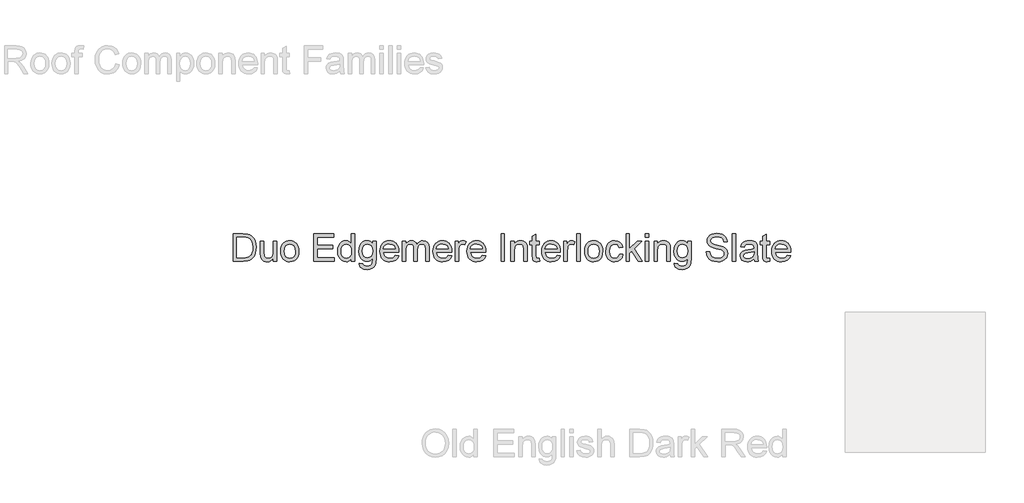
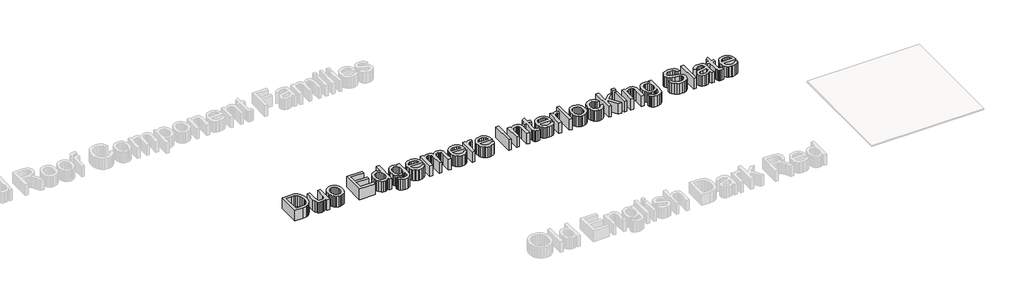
# One storey, part 6 of 8: 1 proxy.
"""IFC4 building model written with IfcOpenShell, lengths in millimetres."""

from ifc_helpers import new_model, si_unit, frame, origin, place, context, project, spatial, polyline, outline, extrude, element, save

model = new_model("IFC4")

# Units and contexts
model_context = context("Model", 3, world=origin())
ifc_project = project(units=[si_unit("LENGTHUNIT", "METRE", prefix="MILLI")], contexts=[model_context])

# Site, building, storey
site = spatial("IfcSite", under=ifc_project)
building = spatial("IfcBuilding", under=site)
storey = spatial("IfcBuildingStorey", under=building, Name="Marley Concrete Interlocking Tiles", Elevation=3000.0)

# Proxy
placement = place(None, origin())
element("IfcBuildingElementProxy", 1, Name="600mm Arial", ObjectType="600mm Arial", at=placement, inside=storey, context=model_context, shape_type="SweptSolid", body=[
    extrude(outline(polyline([(-6964.7985985, 5593.6521873), (-6964.7985985, 5889.0368027), (-6862.8995601, 5889.0368027), (-6810.1832139, 5884.781995), (-6786.6375408, 5876.57887), (-6766.7697524, 5863.6521873), (-6746.3430697, 5841.1521873), (-6731.7937908, 5813.1714181), (-6723.0858582, 5780.250745), (-6720.1832139, 5742.9310335), (-6722.1483582, 5711.2273075), (-6728.0437908, 5683.3276681), (-6737.0221562, 5659.5746633), (-6748.2360985, 5640.3108412), (-6761.1447524, 5625.1035094), (-6775.2072524, 5613.5199758), (-6791.3520841, 5604.9292306), (-6810.5077332, 5598.7002643), (-6857.9957139, 5593.6521873), (-6964.7985985, 5593.6521873)]), holes=[polyline([(-6927.8755216, 5630.5752643), (-6862.5389832, 5630.5752643), (-6835.5137428, 5631.9093989), (-6815.0149447, 5635.9118027), (-6799.5461947, 5642.3481008), (-6787.6110985, 5650.9839181), (-6774.7835745, 5666.9664902), (-6765.1471562, 5687.6545912), (-6759.1165072, 5713.1383652), (-6757.1062908, 5743.5079566), (-6761.0455937, 5783.7483412), (-6772.8635024, 5813.4598796), (-6790.3244399, 5833.8685335), (-6811.1928293, 5846.2002643), (-6832.4308101, 5850.6353604), (-6863.5485985, 5852.1137258), (-6927.8755216, 5852.1137258), (-6927.8755216, 5630.5752643)])]), frame((0.0, 0.0, 3000.0), z_axis=(0.0, 0.0, 1.0), x_axis=(1.0, 0.0, 0.0)), (0.0, 0.0, 1.0), 150.0),
    extrude(outline(polyline([(-6535.5678293, 5593.6521873), (-6535.5678293, 5630.9358412), (-6548.9272043, 5612.6050119), (-6564.4860985, 5599.5115623), (-6582.244512, 5591.6554926), (-6602.2024447, 5589.0368027), (-6620.1862187, 5590.875745), (-6636.9260024, 5596.3925719), (-6650.9704735, 5604.6858412), (-6660.8683101, 5614.8541104), (-6671.8659062, 5642.0416104), (-6674.0293678, 5676.3685335), (-6674.0293678, 5810.5752643), (-6637.1062908, 5810.5752643), (-6637.1062908, 5693.7483412), (-6634.8707139, 5656.1041104), (-6629.4891033, 5643.5470191), (-6620.2673485, 5634.000745), (-6607.8184303, 5627.970096), (-6592.7553293, 5625.9598796), (-6576.8268437, 5628.0151681), (-6561.9260024, 5634.1810335), (-6549.6393437, 5643.8895671), (-6541.5534062, 5656.5728604), (-6537.0642235, 5673.9436537), (-6535.5678293, 5697.7146873), (-6535.5678293, 5810.5752643), (-6498.6447524, 5810.5752643), (-6498.6447524, 5593.6521873), (-6535.5678293, 5593.6521873)])), frame((0.0, 0.0, 3000.0), z_axis=(0.0, 0.0, 1.0), x_axis=(1.0, 0.0, 0.0)), (0.0, 0.0, 1.0), 150.0),
    extrude(outline(polyline([(-6457.1062908, 5702.1137258), (-6455.1095961, 5730.2071753), (-6449.119512, 5754.4154085), (-6439.1360384, 5774.7384253), (-6425.1591755, 5791.1762258), (-6411.087661, 5801.6825359), (-6395.5558101, 5809.1870431), (-6378.5636226, 5813.6897474), (-6360.1110985, 5815.1906489), (-6339.740756, 5813.3629746), (-6321.322036, 5807.8799518), (-6304.8549387, 5798.7415804), (-6290.3394639, 5785.9478604), (-6278.4922584, 5769.9314842), (-6270.0299687, 5751.1251441), (-6264.9525949, 5729.52884), (-6263.260137, 5705.1425719), (-6266.2529255, 5667.8408893), (-6275.2312908, 5639.4454566), (-6289.9338149, 5618.1804325), (-6310.0990793, 5602.2699758), (-6334.0504014, 5592.345096), (-6360.1110985, 5589.0368027), (-6380.778917, 5590.8577162), (-6399.368911, 5596.3204566), (-6415.8810805, 5605.4250239), (-6430.3154255, 5618.1714181), (-6442.0364291, 5634.3432931), (-6450.4085745, 5653.7243027), (-6455.4318618, 5676.3144469), (-6457.1062908, 5702.1137258)]), holes=[polyline([(-6420.1832139, 5702.1858412), (-6415.9103774, 5668.7693748), (-6403.0918678, 5644.9622835), (-6383.8010024, 5630.7104806), (-6360.1110985, 5625.9598796), (-6336.5293678, 5630.7375239), (-6317.2745601, 5645.0704566), (-6304.4560505, 5669.1930527), (-6300.1832139, 5703.3396873), (-6304.4830937, 5735.782596), (-6317.3827332, 5759.2651681), (-6336.6645841, 5773.516971), (-6360.1110985, 5778.2675719), (-6383.8010024, 5773.5349998), (-6403.0918678, 5759.3372835), (-6415.9103774, 5735.5842787), (-6420.1832139, 5702.1858412)])]), frame((0.0, 0.0, 3000.0), z_axis=(0.0, 0.0, 1.0), x_axis=(1.0, 0.0, 0.0)), (0.0, 0.0, 1.0), 150.0),
    extrude(outline(polyline([(-6101.7216755, 5593.6521873), (-6101.7216755, 5889.0368027), (-5889.4139832, 5889.0368027), (-5889.4139832, 5852.1137258), (-6064.7985985, 5852.1137258), (-6064.7985985, 5764.4214181), (-5898.6447524, 5764.4214181), (-5898.6447524, 5727.4983412), (-6064.7985985, 5727.4983412), (-6064.7985985, 5630.5752643), (-5884.7985985, 5630.5752643), (-5884.7985985, 5593.6521873), (-6101.7216755, 5593.6521873)])), frame((0.0, 0.0, 3000.0), z_axis=(0.0, 0.0, 1.0), x_axis=(1.0, 0.0, 0.0)), (0.0, 0.0, 1.0), 150.0),
    extrude(outline(polyline([(-5700.1832139, 5593.6521873), (-5700.1832139, 5628.4839181), (-5711.2303894, 5611.2258051), (-5724.6123005, 5598.8985816), (-5740.3289471, 5591.5022474), (-5758.3803293, 5589.0368027), (-5782.2505216, 5592.6065143), (-5804.1014832, 5603.3156489), (-5822.5990793, 5620.4160094), (-5836.4091755, 5643.1593989), (-5845.0089351, 5670.626346), (-5847.8755216, 5701.8973796), (-5845.2342957, 5732.7807931), (-5837.3106178, 5760.6714181), (-5824.1135024, 5783.9827162), (-5805.6519639, 5801.1281489), (-5783.323238, 5811.6750239), (-5758.5245601, 5815.1906489), (-5740.4596562, 5812.6756248), (-5724.4860985, 5805.1305527), (-5710.9464351, 5793.5650479), (-5700.1832139, 5778.9887258), (-5700.1832139, 5889.0368027), (-5663.260137, 5889.0368027), (-5663.260137, 5593.6521873), (-5700.1832139, 5593.6521873)]), holes=[polyline([(-5810.9524447, 5702.0416104), (-5806.7877812, 5668.6431729), (-5794.2937908, 5644.8901681), (-5776.1387428, 5630.6924518), (-5754.9909062, 5625.9598796), (-5733.8520841, 5630.4761056), (-5716.1567716, 5644.0247835), (-5704.1766033, 5666.8583171), (-5700.1832139, 5699.2291104), (-5704.2487187, 5734.6197354), (-5716.4452332, 5759.156995), (-5734.5912668, 5773.4899277), (-5756.5053293, 5778.2675719), (-5777.869512, 5773.6792306), (-5795.3755216, 5759.9142066), (-5807.0582139, 5736.2693748), (-5810.9524447, 5702.0416104)])]), frame((0.0, 0.0, 3000.0), z_axis=(0.0, 0.0, 1.0), x_axis=(1.0, 0.0, 0.0)), (0.0, 0.0, 1.0), 150.0),
    extrude(outline(polyline([(-5617.1062908, 5575.1906489), (-5580.1832139, 5570.5752643), (-5576.1086947, 5559.0368027), (-5568.2120601, 5551.1041104), (-5552.6892235, 5544.938245), (-5532.3707139, 5542.8829566), (-5510.7000408, 5545.2086777), (-5494.5822524, 5552.1858412), (-5483.4043678, 5563.3637258), (-5476.5534062, 5578.2916104), (-5474.0293678, 5621.344495), (-5486.3160264, 5609.2291104), (-5500.0269639, 5600.5752643), (-5515.1621803, 5595.3829566), (-5531.7216755, 5593.6521873), (-5551.9658161, 5595.6669109), (-5569.7895841, 5601.7110816), (-5585.1929795, 5611.7846994), (-5598.1760024, 5625.8877643), (-5608.4772344, 5642.8078364), (-5615.8352572, 5661.3324758), (-5621.7216755, 5703.1954566), (-5619.0804495, 5733.0061537), (-5611.1567716, 5760.4190143), (-5598.2300889, 5783.6491825), (-5580.5798485, 5800.9118027), (-5558.8100168, 5811.6209373), (-5533.5245601, 5815.1906489), (-5516.2574327, 5813.1714181), (-5500.5858582, 5807.1137258), (-5486.5098365, 5797.0175719), (-5474.0293678, 5782.8829566), (-5474.0293678, 5810.5752643), (-5437.1062908, 5810.5752643), (-5437.1062908, 5623.2916104), (-5439.6303293, 5580.0494229), (-5447.2024447, 5551.5728604), (-5460.2463149, 5532.6876441), (-5479.1856178, 5518.219495), (-5503.6056899, 5509.0247835), (-5533.0918678, 5505.9598796), (-5567.4458341, 5510.2777883), (-5594.4981178, 5523.2315143), (-5604.6866694, 5532.9558232), (-5611.8508822, 5544.8571152), (-5615.990756, 5558.9353905), (-5617.1062908, 5575.1906489)]), holes=[polyline([(-5584.7985985, 5705.719495), (-5580.8592957, 5671.8523075), (-5569.041387, 5648.5680527), (-5551.2739591, 5635.0734614), (-5529.4860985, 5630.5752643), (-5507.8604976, 5635.0464181), (-5490.0029255, 5648.4598796), (-5478.0227572, 5671.4466585), (-5474.0293678, 5704.6377643), (-5478.1399447, 5736.6479806), (-5490.4716755, 5759.6978604), (-5508.5906658, 5773.6251441), (-5530.0630216, 5778.2675719), (-5551.1477572, 5773.6972594), (-5568.8250408, 5759.9863219), (-5580.8052091, 5737.2789902), (-5584.7985985, 5705.719495)])]), frame((0.0, 0.0, 3000.0), z_axis=(0.0, 0.0, 1.0), x_axis=(1.0, 0.0, 0.0)), (0.0, 0.0, 1.0), 150.0),
    extrude(outline(polyline([(-5229.8466755, 5658.2675719), (-5193.6447524, 5653.6521873), (-5206.6886226, 5626.3745431), (-5227.5029255, 5605.9839181), (-5255.618911, 5593.2735816), (-5290.5678293, 5589.0368027), (-5313.4779856, 5590.864477), (-5333.8911466, 5596.3474998), (-5351.8073125, 5605.4858712), (-5367.2264832, 5618.2795912), (-5379.6258221, 5634.37259), (-5388.4824928, 5653.4087979), (-5393.7964952, 5675.388215), (-5395.5678293, 5700.3108412), (-5393.7784663, 5726.0785695), (-5388.4103774, 5748.7904085), (-5379.4635625, 5768.446358), (-5366.9380216, 5785.0464181), (-5351.5594158, 5798.2345191), (-5334.0534062, 5807.6545912), (-5314.4199928, 5813.3066344), (-5292.6591755, 5815.1906489), (-5271.5992295, 5813.3111417), (-5252.5540072, 5807.67262), (-5235.5235084, 5798.275084), (-5220.5077332, 5785.1185335), (-5208.2503714, 5768.5545311), (-5199.495113, 5748.9346393), (-5194.2419579, 5726.258858), (-5192.4909062, 5700.5271873), (-5192.7072524, 5690.5752643), (-5358.6447524, 5690.5752643), (-5352.2535264, 5662.9370431), (-5337.4067716, 5642.6185335), (-5315.979488, 5630.1245431), (-5289.8466755, 5625.9598796), (-5270.1952332, 5627.8889662), (-5253.6447524, 5633.6762258), (-5240.1952332, 5643.6822354), (-5229.8466755, 5658.2675719)]), holes=[polyline([(-5358.6447524, 5727.4983412), (-5229.4139832, 5727.4983412), (-5234.4079735, 5747.0055527), (-5244.197637, 5760.9598796), (-5265.7240793, 5773.9406489), (-5292.8034062, 5778.2675719), (-5317.6922283, 5774.8150479), (-5338.2721562, 5764.4574758), (-5352.5780457, 5748.3126441), (-5358.6447524, 5727.4983412)])]), frame((0.0, 0.0, 3000.0), z_axis=(0.0, 0.0, 1.0), x_axis=(1.0, 0.0, 0.0)), (0.0, 0.0, 1.0), 150.0),
    extrude(outline(polyline([(-5155.5678293, 5593.6521873), (-5155.5678293, 5810.5752643), (-5118.6447524, 5810.5752643), (-5118.6447524, 5774.8781489), (-5107.5389832, 5791.2753844), (-5093.260137, 5804.1209373), (-5076.2949928, 5812.423221), (-5057.1303293, 5815.1906489), (-5036.5954735, 5812.3691344), (-5020.135137, 5803.9045912), (-5007.8394639, 5790.3559133), (-4999.7985985, 5772.281995), (-4986.3400649, 5791.0545311), (-4970.9885024, 5804.4634854), (-4953.743911, 5812.508858), (-4934.6062908, 5815.1906489), (-4906.8508822, 5810.7285094), (-4886.3250408, 5797.3420912), (-4873.6417476, 5774.6708171), (-4869.4139832, 5742.3541104), (-4869.4139832, 5593.6521873), (-4906.3370601, 5593.6521873), (-4906.3370601, 5726.4887258), (-4909.7625408, 5757.3180527), (-4914.5762428, 5765.8186537), (-4922.166387, 5772.4983412), (-4931.9290072, 5776.8252643), (-4943.260137, 5778.2675719), (-4963.2631418, 5774.5716585), (-4979.5702332, 5763.4839181), (-4990.4145841, 5744.2471393), (-4994.0293678, 5716.1041104), (-4994.0293678, 5593.6521873), (-5030.9524447, 5593.6521873), (-5030.9524447, 5730.5993027), (-5033.088863, 5751.4767066), (-5039.4981178, 5766.3685335), (-5050.775161, 5775.2928123), (-5067.5149447, 5778.2675719), (-5081.7397043, 5776.2843989), (-5094.8466755, 5770.3348796), (-5105.6639832, 5760.563245), (-5113.0197524, 5747.1137258), (-5117.2385024, 5728.45387), (-5118.6447524, 5703.0512258), (-5118.6447524, 5593.6521873), (-5155.5678293, 5593.6521873)])), frame((0.0, 0.0, 3000.0), z_axis=(0.0, 0.0, 1.0), x_axis=(1.0, 0.0, 0.0)), (0.0, 0.0, 1.0), 150.0),
    extrude(outline(polyline([(-4662.1543678, 5658.2675719), (-4625.9524447, 5653.6521873), (-4638.9963149, 5626.3745431), (-4659.8106178, 5605.9839181), (-4687.9266033, 5593.2735816), (-4722.8755216, 5589.0368027), (-4745.7856779, 5590.864477), (-4766.1988389, 5596.3474998), (-4784.1150048, 5605.4858712), (-4799.5341755, 5618.2795912), (-4811.9335144, 5634.37259), (-4820.7901851, 5653.4087979), (-4826.1041875, 5675.388215), (-4827.8755216, 5700.3108412), (-4826.0861586, 5726.0785695), (-4820.7180697, 5748.7904085), (-4811.7712548, 5768.446358), (-4799.2457139, 5785.0464181), (-4783.8671082, 5798.2345191), (-4766.3610985, 5807.6545912), (-4746.7276851, 5813.3066344), (-4724.9668678, 5815.1906489), (-4703.9069219, 5813.3111417), (-4684.8616995, 5807.67262), (-4667.8312007, 5798.275084), (-4652.8154255, 5785.1185335), (-4640.5580637, 5768.5545311), (-4631.8028053, 5748.9346393), (-4626.5496502, 5726.258858), (-4624.7985985, 5700.5271873), (-4625.0149447, 5690.5752643), (-4790.9524447, 5690.5752643), (-4784.5612187, 5662.9370431), (-4769.7144639, 5642.6185335), (-4748.2871803, 5630.1245431), (-4722.1543678, 5625.9598796), (-4702.5029255, 5627.8889662), (-4685.9524447, 5633.6762258), (-4672.5029255, 5643.6822354), (-4662.1543678, 5658.2675719)]), holes=[polyline([(-4790.9524447, 5727.4983412), (-4661.7216755, 5727.4983412), (-4666.7156658, 5747.0055527), (-4676.5053293, 5760.9598796), (-4698.0317716, 5773.9406489), (-4725.1110985, 5778.2675719), (-4749.9999207, 5774.8150479), (-4770.5798485, 5764.4574758), (-4784.885738, 5748.3126441), (-4790.9524447, 5727.4983412)])]), frame((0.0, 0.0, 3000.0), z_axis=(0.0, 0.0, 1.0), x_axis=(1.0, 0.0, 0.0)), (0.0, 0.0, 1.0), 150.0),
    extrude(outline(polyline([(-4587.8755216, 5593.6521873), (-4587.8755216, 5810.5752643), (-4555.5678293, 5810.5752643), (-4555.5678293, 5778.4839181), (-4543.6327332, 5797.0896873), (-4532.635137, 5808.0512258), (-4521.6014832, 5813.4057931), (-4509.5582139, 5815.1906489), (-4491.1687908, 5812.3420912), (-4472.4909062, 5803.7964181), (-4484.822637, 5770.6954566), (-4497.8034062, 5776.3745431), (-4510.7841755, 5778.2675719), (-4521.8088149, 5776.4466585), (-4531.6615793, 5770.9839181), (-4539.6213149, 5762.2940143), (-4544.9668678, 5750.7916104), (-4549.4560505, 5730.1666104), (-4550.9524447, 5707.6666104), (-4550.9524447, 5593.6521873), (-4587.8755216, 5593.6521873)])), frame((0.0, 0.0, 3000.0), z_axis=(0.0, 0.0, 1.0), x_axis=(1.0, 0.0, 0.0)), (0.0, 0.0, 1.0), 150.0),
    extrude(outline(polyline([(-4297.5389832, 5658.2675719), (-4261.3370601, 5653.6521873), (-4274.3809303, 5626.3745431), (-4295.1952332, 5605.9839181), (-4323.3112187, 5593.2735816), (-4358.260137, 5589.0368027), (-4381.1702932, 5590.864477), (-4401.5834543, 5596.3474998), (-4419.4996202, 5605.4858712), (-4434.9187908, 5618.2795912), (-4447.3181298, 5634.37259), (-4456.1748005, 5653.4087979), (-4461.4888029, 5675.388215), (-4463.260137, 5700.3108412), (-4461.470774, 5726.0785695), (-4456.1026851, 5748.7904085), (-4447.1558702, 5768.446358), (-4434.6303293, 5785.0464181), (-4419.2517235, 5798.2345191), (-4401.7457139, 5807.6545912), (-4382.1123005, 5813.3066344), (-4360.3514832, 5815.1906489), (-4339.2915372, 5813.3111417), (-4320.2463149, 5807.67262), (-4303.2158161, 5798.275084), (-4288.2000408, 5785.1185335), (-4275.9426791, 5768.5545311), (-4267.1874207, 5748.9346393), (-4261.9342656, 5726.258858), (-4260.1832139, 5700.5271873), (-4260.3995601, 5690.5752643), (-4426.3370601, 5690.5752643), (-4419.9458341, 5662.9370431), (-4405.0990793, 5642.6185335), (-4383.6717957, 5630.1245431), (-4357.5389832, 5625.9598796), (-4337.8875408, 5627.8889662), (-4321.3370601, 5633.6762258), (-4307.8875408, 5643.6822354), (-4297.5389832, 5658.2675719)]), holes=[polyline([(-4426.3370601, 5727.4983412), (-4297.1062908, 5727.4983412), (-4302.1002812, 5747.0055527), (-4311.8899447, 5760.9598796), (-4333.416387, 5773.9406489), (-4360.4957139, 5778.2675719), (-4385.384536, 5774.8150479), (-4405.9644639, 5764.4574758), (-4420.2703533, 5748.3126441), (-4426.3370601, 5727.4983412)])]), frame((0.0, 0.0, 3000.0), z_axis=(0.0, 0.0, 1.0), x_axis=(1.0, 0.0, 0.0)), (0.0, 0.0, 1.0), 150.0),
    extrude(outline(polyline([(-4098.6447524, 5593.6521873), (-4098.6447524, 5889.0368027), (-4061.7216755, 5889.0368027), (-4061.7216755, 5593.6521873), (-4098.6447524, 5593.6521873)])), frame((0.0, 0.0, 3000.0), z_axis=(0.0, 0.0, 1.0), x_axis=(1.0, 0.0, 0.0)), (0.0, 0.0, 1.0), 150.0),
    extrude(outline(polyline([(-3992.4909062, 5593.6521873), (-3992.4909062, 5810.5752643), (-3955.5678293, 5810.5752643), (-3955.5678293, 5780.2868027), (-3942.7403053, 5795.5572354), (-3927.3346562, 5806.4646873), (-3909.3508822, 5813.0091585), (-3888.7889832, 5815.1906489), (-3870.588863, 5813.4328364), (-3853.9211947, 5808.1593989), (-3840.0209543, 5800.0283893), (-3830.1231178, 5789.6978604), (-3819.0534062, 5762.5464181), (-3817.1062908, 5726.8493027), (-3817.1062908, 5593.6521873), (-3854.0293678, 5593.6521873), (-3854.0293678, 5721.8733412), (-3858.2841755, 5754.5416104), (-3864.1705937, 5764.2681729), (-3873.3202332, 5771.813245), (-3885.0479976, 5776.6539902), (-3898.6687908, 5778.2675719), (-3920.2943918, 5774.6437739), (-3938.728887, 5763.7723796), (-3946.0959243, 5754.8976801), (-3951.3580937, 5742.7687739), (-3955.5678293, 5708.7483412), (-3955.5678293, 5593.6521873), (-3992.4909062, 5593.6521873)])), frame((0.0, 0.0, 3000.0), z_axis=(0.0, 0.0, 1.0), x_axis=(1.0, 0.0, 0.0)), (0.0, 0.0, 1.0), 150.0),
    extrude(outline(polyline([(-3687.8755216, 5624.4454566), (-3683.260137, 5592.5704566), (-3710.8803293, 5589.0368027), (-3728.6026851, 5590.5692546), (-3741.8178293, 5595.1666104), (-3751.1567716, 5602.2519469), (-3757.2505216, 5611.2483412), (-3760.603887, 5626.6990623), (-3761.7216755, 5653.1473796), (-3761.7216755, 5773.6521873), (-3789.4139832, 5773.6521873), (-3789.4139832, 5810.5752643), (-3761.7216755, 5810.5752643), (-3761.7216755, 5863.2916104), (-3724.7985985, 5884.9983412), (-3724.7985985, 5810.5752643), (-3687.8755216, 5810.5752643), (-3687.8755216, 5773.6521873), (-3724.7985985, 5773.6521873), (-3724.7985985, 5654.2291104), (-3722.8514832, 5635.1906489), (-3716.541387, 5628.4478604), (-3703.9572524, 5625.9598796), (-3687.8755216, 5624.4454566)])), frame((0.0, 0.0, 3000.0), z_axis=(0.0, 0.0, 1.0), x_axis=(1.0, 0.0, 0.0)), (0.0, 0.0, 1.0), 150.0),
    extrude(outline(polyline([(-3499.0774447, 5658.2675719), (-3462.8755216, 5653.6521873), (-3475.9193918, 5626.3745431), (-3496.7336947, 5605.9839181), (-3524.8496803, 5593.2735816), (-3559.7985985, 5589.0368027), (-3582.7087548, 5590.864477), (-3603.1219158, 5596.3474998), (-3621.0380817, 5605.4858712), (-3636.4572524, 5618.2795912), (-3648.8565913, 5634.37259), (-3657.713262, 5653.4087979), (-3663.0272644, 5675.388215), (-3664.7985985, 5700.3108412), (-3663.0092356, 5726.0785695), (-3657.6411466, 5748.7904085), (-3648.6943317, 5768.446358), (-3636.1687908, 5785.0464181), (-3620.7901851, 5798.2345191), (-3603.2841755, 5807.6545912), (-3583.650762, 5813.3066344), (-3561.8899447, 5815.1906489), (-3540.8299988, 5813.3111417), (-3521.7847764, 5807.67262), (-3504.7542776, 5798.275084), (-3489.7385024, 5785.1185335), (-3477.4811406, 5768.5545311), (-3468.7258822, 5748.9346393), (-3463.4727271, 5726.258858), (-3461.7216755, 5700.5271873), (-3461.9380216, 5690.5752643), (-3627.8755216, 5690.5752643), (-3621.4842957, 5662.9370431), (-3606.6375408, 5642.6185335), (-3585.2102572, 5630.1245431), (-3559.0774447, 5625.9598796), (-3539.4260024, 5627.8889662), (-3522.8755216, 5633.6762258), (-3509.4260024, 5643.6822354), (-3499.0774447, 5658.2675719)]), holes=[polyline([(-3627.8755216, 5727.4983412), (-3498.6447524, 5727.4983412), (-3503.6387428, 5747.0055527), (-3513.4284062, 5760.9598796), (-3534.9548485, 5773.9406489), (-3562.0341755, 5778.2675719), (-3586.9229976, 5774.8150479), (-3607.5029255, 5764.4574758), (-3621.8088149, 5748.3126441), (-3627.8755216, 5727.4983412)])]), frame((0.0, 0.0, 3000.0), z_axis=(0.0, 0.0, 1.0), x_axis=(1.0, 0.0, 0.0)), (0.0, 0.0, 1.0), 150.0),
    extrude(outline(polyline([(-3424.7985985, 5593.6521873), (-3424.7985985, 5810.5752643), (-3392.4909062, 5810.5752643), (-3392.4909062, 5778.4839181), (-3380.5558101, 5797.0896873), (-3369.5582139, 5808.0512258), (-3358.5245601, 5813.4057931), (-3346.4812908, 5815.1906489), (-3328.0918678, 5812.3420912), (-3309.4139832, 5803.7964181), (-3321.7457139, 5770.6954566), (-3334.7264832, 5776.3745431), (-3347.7072524, 5778.2675719), (-3358.7318918, 5776.4466585), (-3368.5846562, 5770.9839181), (-3376.5443918, 5762.2940143), (-3381.8899447, 5750.7916104), (-3386.3791274, 5730.1666104), (-3387.8755216, 5707.6666104), (-3387.8755216, 5593.6521873), (-3424.7985985, 5593.6521873)])), frame((0.0, 0.0, 3000.0), z_axis=(0.0, 0.0, 1.0), x_axis=(1.0, 0.0, 0.0)), (0.0, 0.0, 1.0), 150.0),
    extrude(outline(polyline([(-3286.3370601, 5593.6521873), (-3286.3370601, 5889.0368027), (-3249.4139832, 5889.0368027), (-3249.4139832, 5593.6521873), (-3286.3370601, 5593.6521873)])), frame((0.0, 0.0, 3000.0), z_axis=(0.0, 0.0, 1.0), x_axis=(1.0, 0.0, 0.0)), (0.0, 0.0, 1.0), 150.0),
    extrude(outline(polyline([(-3203.260137, 5702.1137258), (-3201.2634423, 5730.2071753), (-3195.2733582, 5754.4154085), (-3185.2898846, 5774.7384253), (-3171.3130216, 5791.1762258), (-3157.2415072, 5801.6825359), (-3141.7096562, 5809.1870431), (-3124.7174687, 5813.6897474), (-3106.2649447, 5815.1906489), (-3085.8946021, 5813.3629746), (-3067.4758822, 5807.8799518), (-3051.0087848, 5798.7415804), (-3036.4933101, 5785.9478604), (-3024.6461045, 5769.9314842), (-3016.1838149, 5751.1251441), (-3011.1064411, 5729.52884), (-3009.4139832, 5705.1425719), (-3012.4067716, 5667.8408893), (-3021.385137, 5639.4454566), (-3036.087661, 5618.1804325), (-3056.2529255, 5602.2699758), (-3080.2042476, 5592.345096), (-3106.2649447, 5589.0368027), (-3126.9327632, 5590.8577162), (-3145.5227572, 5596.3204566), (-3162.0349267, 5605.4250239), (-3176.4692716, 5618.1714181), (-3188.1902752, 5634.3432931), (-3196.5624207, 5653.7243027), (-3201.5857079, 5676.3144469), (-3203.260137, 5702.1137258)]), holes=[polyline([(-3166.3370601, 5702.1858412), (-3162.0642235, 5668.7693748), (-3149.2457139, 5644.9622835), (-3129.9548485, 5630.7104806), (-3106.2649447, 5625.9598796), (-3082.6832139, 5630.7375239), (-3063.4284062, 5645.0704566), (-3050.6098966, 5669.1930527), (-3046.3370601, 5703.3396873), (-3050.6369399, 5735.782596), (-3063.5365793, 5759.2651681), (-3082.8184303, 5773.516971), (-3106.2649447, 5778.2675719), (-3129.9548485, 5773.5349998), (-3149.2457139, 5759.3372835), (-3162.0642235, 5735.5842787), (-3166.3370601, 5702.1858412)])]), frame((0.0, 0.0, 3000.0), z_axis=(0.0, 0.0, 1.0), x_axis=(1.0, 0.0, 0.0)), (0.0, 0.0, 1.0), 150.0),
    extrude(outline(polyline([(-2829.4139832, 5672.1137258), (-2792.4909062, 5667.4983412), (-2802.7853774, 5634.6587979), (-2822.1303293, 5609.8420912), (-2848.7048485, 5594.2381248), (-2880.6880216, 5589.0368027), (-2901.396405, 5590.8509554), (-2919.963863, 5596.2934133), (-2936.3903954, 5605.3641765), (-2950.6760024, 5618.063245), (-2962.2392536, 5634.1517366), (-2970.4987187, 5653.3907691), (-2975.4543978, 5675.7803424), (-2977.1062908, 5701.3204566), (-2974.2847764, 5734.1780287), (-2965.8202332, 5762.6545912), (-2951.5774447, 5785.6503844), (-2931.4211947, 5802.0656489), (-2907.307613, 5811.9093989), (-2881.1928293, 5815.1906489), (-2849.993911, 5810.6834373), (-2825.0510024, 5797.1618027), (-2807.1573726, 5775.3468989), (-2797.1062908, 5745.9598796), (-2834.0293678, 5741.344495), (-2840.7270841, 5757.4532691), (-2851.1567716, 5769.000745), (-2864.7415072, 5775.9508652), (-2880.9043678, 5778.2675719), (-2904.7655457, 5773.7062739), (-2923.7048485, 5760.0223796), (-2936.0636226, 5736.4767066), (-2940.1832139, 5702.3300719), (-2936.1537668, 5667.7237018), (-2924.0654255, 5644.0968989), (-2905.4686707, 5630.4941344), (-2881.9139832, 5625.9598796), (-2862.7943918, 5628.7904085), (-2847.1183101, 5637.281995), (-2835.7150649, 5651.6509854), (-2829.4139832, 5672.1137258)])), frame((0.0, 0.0, 3000.0), z_axis=(0.0, 0.0, 1.0), x_axis=(1.0, 0.0, 0.0)), (0.0, 0.0, 1.0), 150.0),
    extrude(outline(polyline([(-2760.1832139, 5593.6521873), (-2760.1832139, 5889.0368027), (-2723.260137, 5889.0368027), (-2723.260137, 5730.3108412), (-2640.4716755, 5810.5752643), (-2589.4139832, 5810.5752643), (-2673.2120601, 5729.3012258), (-2584.7985985, 5593.6521873), (-2627.9235985, 5593.6521873), (-2699.6784062, 5703.6281489), (-2723.260137, 5680.7675719), (-2723.260137, 5593.6521873), (-2760.1832139, 5593.6521873)])), frame((0.0, 0.0, 3000.0), z_axis=(0.0, 0.0, 1.0), x_axis=(1.0, 0.0, 0.0)), (0.0, 0.0, 1.0), 150.0),
    extrude(outline(polyline([(-2552.4909062, 5593.6521873), (-2552.4909062, 5810.5752643), (-2515.5678293, 5810.5752643), (-2515.5678293, 5593.6521873), (-2552.4909062, 5593.6521873)])), frame((0.0, 0.0, 3000.0), z_axis=(0.0, 0.0, 1.0), x_axis=(1.0, 0.0, 0.0)), (0.0, 0.0, 1.0), 150.0),
    extrude(outline(polyline([(-2552.4909062, 5852.1137258), (-2552.4909062, 5889.0368027), (-2515.5678293, 5889.0368027), (-2515.5678293, 5852.1137258), (-2552.4909062, 5852.1137258)])), frame((0.0, 0.0, 3000.0), z_axis=(0.0, 0.0, 1.0), x_axis=(1.0, 0.0, 0.0)), (0.0, 0.0, 1.0), 150.0),
    extrude(outline(polyline([(-2460.1832139, 5593.6521873), (-2460.1832139, 5810.5752643), (-2423.260137, 5810.5752643), (-2423.260137, 5780.2868027), (-2410.432613, 5795.5572354), (-2395.0269639, 5806.4646873), (-2377.0431899, 5813.0091585), (-2356.4812908, 5815.1906489), (-2338.2811707, 5813.4328364), (-2321.6135024, 5808.1593989), (-2307.713262, 5800.0283893), (-2297.8154255, 5789.6978604), (-2286.7457139, 5762.5464181), (-2284.7985985, 5726.8493027), (-2284.7985985, 5593.6521873), (-2321.7216755, 5593.6521873), (-2321.7216755, 5721.8733412), (-2325.9764832, 5754.5416104), (-2331.8629014, 5764.2681729), (-2341.0125408, 5771.813245), (-2352.7403053, 5776.6539902), (-2366.3610985, 5778.2675719), (-2387.9866995, 5774.6437739), (-2406.4211947, 5763.7723796), (-2413.7882319, 5754.8976801), (-2419.0504014, 5742.7687739), (-2423.260137, 5708.7483412), (-2423.260137, 5593.6521873), (-2460.1832139, 5593.6521873)])), frame((0.0, 0.0, 3000.0), z_axis=(0.0, 0.0, 1.0), x_axis=(1.0, 0.0, 0.0)), (0.0, 0.0, 1.0), 150.0),
    extrude(outline(polyline([(-2243.260137, 5575.1906489), (-2206.3370601, 5570.5752643), (-2202.2625408, 5559.0368027), (-2194.3659062, 5551.1041104), (-2178.8430697, 5544.938245), (-2158.5245601, 5542.8829566), (-2136.853887, 5545.2086777), (-2120.7360985, 5552.1858412), (-2109.5582139, 5563.3637258), (-2102.7072524, 5578.2916104), (-2100.1832139, 5621.344495), (-2112.4698726, 5609.2291104), (-2126.1808101, 5600.5752643), (-2141.3160264, 5595.3829566), (-2157.8755216, 5593.6521873), (-2178.1196622, 5595.6669109), (-2195.9434303, 5601.7110816), (-2211.3468257, 5611.7846994), (-2224.3298485, 5625.8877643), (-2234.6310805, 5642.8078364), (-2241.9891033, 5661.3324758), (-2247.8755216, 5703.1954566), (-2245.2342957, 5733.0061537), (-2237.3106178, 5760.4190143), (-2224.3839351, 5783.6491825), (-2206.7336947, 5800.9118027), (-2184.963863, 5811.6209373), (-2159.6784062, 5815.1906489), (-2142.4112788, 5813.1714181), (-2126.7397043, 5807.1137258), (-2112.6636827, 5797.0175719), (-2100.1832139, 5782.8829566), (-2100.1832139, 5810.5752643), (-2063.260137, 5810.5752643), (-2063.260137, 5623.2916104), (-2065.7841755, 5580.0494229), (-2073.3562908, 5551.5728604), (-2086.400161, 5532.6876441), (-2105.3394639, 5518.219495), (-2129.759536, 5509.0247835), (-2159.2457139, 5505.9598796), (-2193.5996803, 5510.2777883), (-2220.6519639, 5523.2315143), (-2230.8405156, 5532.9558232), (-2238.0047283, 5544.8571152), (-2242.1446021, 5558.9353905), (-2243.260137, 5575.1906489)]), holes=[polyline([(-2210.9524447, 5705.719495), (-2207.0131418, 5671.8523075), (-2195.1952332, 5648.5680527), (-2177.4278053, 5635.0734614), (-2155.6399447, 5630.5752643), (-2134.0143437, 5635.0464181), (-2116.1567716, 5648.4598796), (-2104.1766033, 5671.4466585), (-2100.1832139, 5704.6377643), (-2104.2937908, 5736.6479806), (-2116.6255216, 5759.6978604), (-2134.744512, 5773.6251441), (-2156.2168678, 5778.2675719), (-2177.3016033, 5773.6972594), (-2194.978887, 5759.9863219), (-2206.9590553, 5737.2789902), (-2210.9524447, 5705.719495)])]), frame((0.0, 0.0, 3000.0), z_axis=(0.0, 0.0, 1.0), x_axis=(1.0, 0.0, 0.0)), (0.0, 0.0, 1.0), 150.0),
    extrude(outline(polyline([(-1901.7216755, 5695.1906489), (-1864.7985985, 5695.1906489), (-1860.5618197, 5674.7008652), (-1852.8995601, 5658.2315143), (-1840.9464351, 5645.1606008), (-1823.8370601, 5634.8661296), (-1802.9235985, 5628.1864421), (-1779.5582139, 5625.9598796), (-1758.9873005, 5627.6455768), (-1740.9764832, 5632.7026681), (-1726.3821322, 5640.7074758), (-1716.0606178, 5651.2363219), (-1709.9217957, 5663.3246633), (-1707.8755216, 5676.0079566), (-1709.4079735, 5688.3667306), (-1714.0053293, 5699.0488219), (-1723.3442716, 5708.1624037), (-1739.1014832, 5715.8156489), (-1792.8635024, 5729.9142066), (-1828.1549687, 5739.2441344), (-1850.7360985, 5748.1233412), (-1869.1165072, 5760.5452162), (-1882.1423485, 5775.5993027), (-1889.9037668, 5792.9610816), (-1892.4909062, 5812.3060335), (-1889.290786, 5833.9316344), (-1879.6904255, 5854.0968989), (-1863.9422283, 5871.188245), (-1842.2985985, 5883.5920912), (-1816.3190312, 5891.1371633), (-1787.5630216, 5893.6521873), (-1756.4091755, 5891.0199758), (-1729.1495601, 5883.1233412), (-1706.7577332, 5870.1245431), (-1690.2072524, 5852.1858412), (-1679.7324928, 5830.4250239), (-1675.5678293, 5805.9598796), (-1712.4909062, 5805.9598796), (-1719.2697524, 5827.9911296), (-1733.4043678, 5843.8925719), (-1755.4897043, 5853.5199758), (-1786.1207139, 5856.7291104), (-1817.4728774, 5853.5560335), (-1838.9812908, 5844.0368027), (-1851.4211947, 5830.0283893), (-1855.5678293, 5813.3877643), (-1852.6291274, 5799.1990623), (-1843.8130216, 5787.7868027), (-1822.9716755, 5777.5824758), (-1783.5245601, 5767.1618027), (-1718.1880216, 5748.6281489), (-1697.1393437, 5735.2327162), (-1682.4548485, 5718.7002643), (-1673.8280457, 5699.2110816), (-1670.9524447, 5676.9454566), (-1674.260738, 5654.1840383), (-1684.1856178, 5632.7747835), (-1700.3214351, 5614.3493027), (-1722.2625408, 5600.5392066), (-1748.6477572, 5591.9124037), (-1778.1159062, 5589.0368027), (-1814.290786, 5592.1377643), (-1844.0654255, 5601.4406489), (-1867.7823726, 5616.9815143), (-1885.7841755, 5638.7964181), (-1897.3406658, 5665.3709373), (-1901.7216755, 5695.1906489)])), frame((0.0, 0.0, 3000.0), z_axis=(0.0, 0.0, 1.0), x_axis=(1.0, 0.0, 0.0)), (0.0, 0.0, 1.0), 150.0),
    extrude(outline(polyline([(-1620.1832139, 5593.6521873), (-1620.1832139, 5889.0368027), (-1583.260137, 5889.0368027), (-1583.260137, 5593.6521873), (-1620.1832139, 5593.6521873)])), frame((0.0, 0.0, 3000.0), z_axis=(0.0, 0.0, 1.0), x_axis=(1.0, 0.0, 0.0)), (0.0, 0.0, 1.0), 150.0),
    extrude(outline(polyline([(-1389.4139832, 5621.344495), (-1407.0552091, 5606.2182931), (-1425.2192716, 5596.3204566), (-1444.3208341, 5590.8577162), (-1464.7745601, 5589.0368027), (-1495.6309303, 5593.4178123), (-1518.3923485, 5606.5608412), (-1532.4278053, 5626.5187739), (-1537.1062908, 5651.344495), (-1535.3394639, 5666.6509854), (-1530.0389832, 5680.5512258), (-1521.8629014, 5692.4502643), (-1511.4692716, 5701.7531489), (-1485.6159062, 5713.8685335), (-1453.6687908, 5719.4214181), (-1415.916387, 5725.2627643), (-1389.6303293, 5732.1137258), (-1389.4139832, 5740.3348796), (-1391.9560505, 5756.813245), (-1399.5822524, 5767.594495), (-1416.6375408, 5775.5993027), (-1440.3995601, 5778.2675719), (-1462.3947524, 5776.4917306), (-1477.7553293, 5771.1642066), (-1488.2300889, 5761.3114421), (-1495.5678293, 5745.9598796), (-1532.4909062, 5750.5752643), (-1526.0816514, 5770.7675719), (-1516.5173485, 5786.6329566), (-1502.9055697, 5798.76637), (-1484.353887, 5807.7627643), (-1461.6645841, 5813.3336777), (-1435.6399447, 5815.1906489), (-1410.6790072, 5813.5500239), (-1390.8923485, 5808.6281489), (-1375.9734783, 5801.2273075), (-1365.6159062, 5792.1497835), (-1358.7469158, 5780.9268268), (-1354.2937908, 5767.0896873), (-1352.4909062, 5734.781995), (-1352.4909062, 5688.844495), (-1350.6159062, 5624.6978604), (-1343.260137, 5593.6521873), (-1380.1832139, 5593.6521873), (-1389.4139832, 5621.344495)]), holes=[polyline([(-1389.4139832, 5695.1906489), (-1448.9812908, 5683.8685335), (-1480.7481178, 5677.8829566), (-1495.135137, 5668.1473796), (-1500.1832139, 5653.9406489), (-1497.4338149, 5642.9610816), (-1489.1856178, 5633.9646873), (-1475.618911, 5627.9610816), (-1456.9139832, 5625.9598796), (-1437.0822524, 5628.1684133), (-1419.5582139, 5634.7940143), (-1405.3514832, 5644.5566344), (-1395.4716755, 5656.1762258), (-1391.0906658, 5668.1473796), (-1389.6303293, 5684.7339181), (-1389.4139832, 5695.1906489)])]), frame((0.0, 0.0, 3000.0), z_axis=(0.0, 0.0, 1.0), x_axis=(1.0, 0.0, 0.0)), (0.0, 0.0, 1.0), 150.0),
    extrude(outline(polyline([(-1223.260137, 5624.4454566), (-1218.6447524, 5592.5704566), (-1246.2649447, 5589.0368027), (-1263.9873005, 5590.5692546), (-1277.2024447, 5595.1666104), (-1286.541387, 5602.2519469), (-1292.635137, 5611.2483412), (-1295.9885024, 5626.6990623), (-1297.1062908, 5653.1473796), (-1297.1062908, 5773.6521873), (-1324.7985985, 5773.6521873), (-1324.7985985, 5810.5752643), (-1297.1062908, 5810.5752643), (-1297.1062908, 5863.2916104), (-1260.1832139, 5884.9983412), (-1260.1832139, 5810.5752643), (-1223.260137, 5810.5752643), (-1223.260137, 5773.6521873), (-1260.1832139, 5773.6521873), (-1260.1832139, 5654.2291104), (-1258.2360985, 5635.1906489), (-1251.9260024, 5628.4478604), (-1239.3418678, 5625.9598796), (-1223.260137, 5624.4454566)])), frame((0.0, 0.0, 3000.0), z_axis=(0.0, 0.0, 1.0), x_axis=(1.0, 0.0, 0.0)), (0.0, 0.0, 1.0), 150.0),
    extrude(outline(polyline([(-1034.4620601, 5658.2675719), (-998.260137, 5653.6521873), (-1011.3040072, 5626.3745431), (-1032.1183101, 5605.9839181), (-1060.2342957, 5593.2735816), (-1095.1832139, 5589.0368027), (-1118.0933702, 5590.864477), (-1138.5065312, 5596.3474998), (-1156.4226971, 5605.4858712), (-1171.8418678, 5618.2795912), (-1184.2412067, 5634.37259), (-1193.0978774, 5653.4087979), (-1198.4118798, 5675.388215), (-1200.1832139, 5700.3108412), (-1198.3938509, 5726.0785695), (-1193.025762, 5748.7904085), (-1184.0789471, 5768.446358), (-1171.5534062, 5785.0464181), (-1156.1748005, 5798.2345191), (-1138.6687908, 5807.6545912), (-1119.0353774, 5813.3066344), (-1097.2745601, 5815.1906489), (-1076.2146142, 5813.3111417), (-1057.1693918, 5807.67262), (-1040.138893, 5798.275084), (-1025.1231178, 5785.1185335), (-1012.865756, 5768.5545311), (-1004.1104976, 5748.9346393), (-998.8573425, 5726.258858), (-997.1062908, 5700.5271873), (-997.322637, 5690.5752643), (-1163.260137, 5690.5752643), (-1156.868911, 5662.9370431), (-1142.0221562, 5642.6185335), (-1120.5948726, 5630.1245431), (-1094.4620601, 5625.9598796), (-1074.8106178, 5627.8889662), (-1058.260137, 5633.6762258), (-1044.8106178, 5643.6822354), (-1034.4620601, 5658.2675719)]), holes=[polyline([(-1163.260137, 5727.4983412), (-1034.0293678, 5727.4983412), (-1039.0233582, 5747.0055527), (-1048.8130216, 5760.9598796), (-1070.3394639, 5773.9406489), (-1097.4187908, 5778.2675719), (-1122.307613, 5774.8150479), (-1142.8875408, 5764.4574758), (-1157.1934303, 5748.3126441), (-1163.260137, 5727.4983412)])]), frame((0.0, 0.0, 3000.0), z_axis=(0.0, 0.0, 1.0), x_axis=(1.0, 0.0, 0.0)), (0.0, 0.0, 1.0), 150.0),
])

save(model, "model.ifc")
